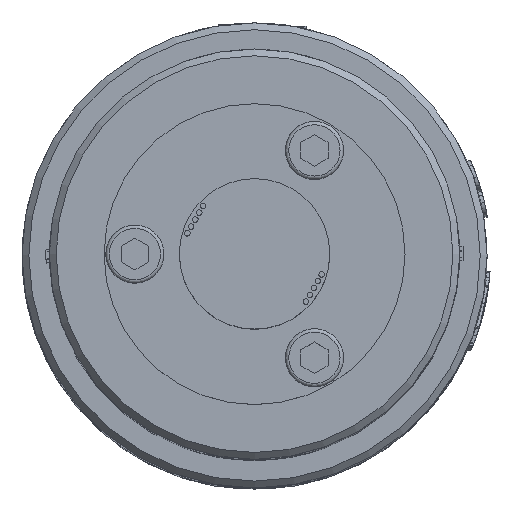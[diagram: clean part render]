
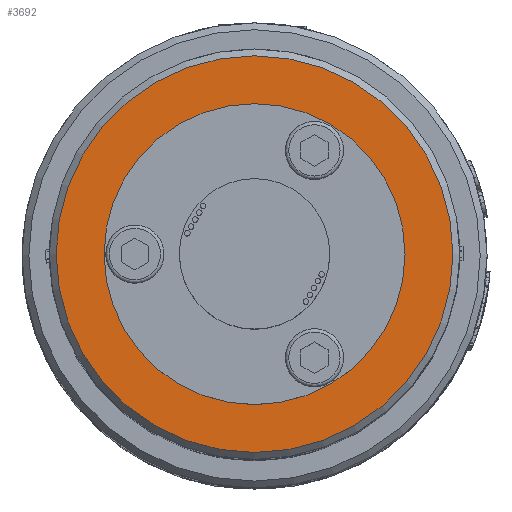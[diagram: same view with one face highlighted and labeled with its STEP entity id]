
A CAD part, top view. The second image highlights one B-rep face of the part: STEP entity #3692.
In plain terms, the highlighted planar face has unit normal (0, 0, 1).
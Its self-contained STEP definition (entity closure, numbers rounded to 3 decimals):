
#916=FACE_BOUND('',#8848,.T.);
#917=FACE_BOUND('',#8849,.T.);
#1522=CIRCLE('',#27406,29.);
#1533=CIRCLE('',#27449,22.);
#2001=PLANE('',#27450);
#3692=ADVANCED_FACE('',(#916,#917),#2001,.T.);
#8848=EDGE_LOOP('',(#13593));
#8849=EDGE_LOOP('',(#13594));
#13593=ORIENTED_EDGE('',*,*,#21767,.T.);
#13594=ORIENTED_EDGE('',*,*,#21832,.F.);
#18746=VERTEX_POINT('',#43216);
#18793=VERTEX_POINT('',#43360);
#21767=EDGE_CURVE('',#18746,#18746,#1522,.T.);
#21832=EDGE_CURVE('',#18793,#18793,#1533,.T.);
#27406=AXIS2_PLACEMENT_3D('',#43215,#30587,#30588);
#27449=AXIS2_PLACEMENT_3D('',#43359,#30727,#30728);
#27450=AXIS2_PLACEMENT_3D('',#43361,#30729,#30730);
#30587=DIRECTION('',(0.,0.,1.));
#30588=DIRECTION('',(1.,0.,0.));
#30727=DIRECTION('',(0.,0.,1.));
#30728=DIRECTION('',(0.866,-0.5,0.));
#30729=DIRECTION('',(0.,0.,1.));
#30730=DIRECTION('',(1.,0.,0.));
#43215=CARTESIAN_POINT('',(0.,0.,233.));
#43216=CARTESIAN_POINT('',(29.,0.,233.));
#43359=CARTESIAN_POINT('',(0.,0.,233.));
#43360=CARTESIAN_POINT('',(19.053,-11.,233.));
#43361=CARTESIAN_POINT('',(0.,0.,233.));
